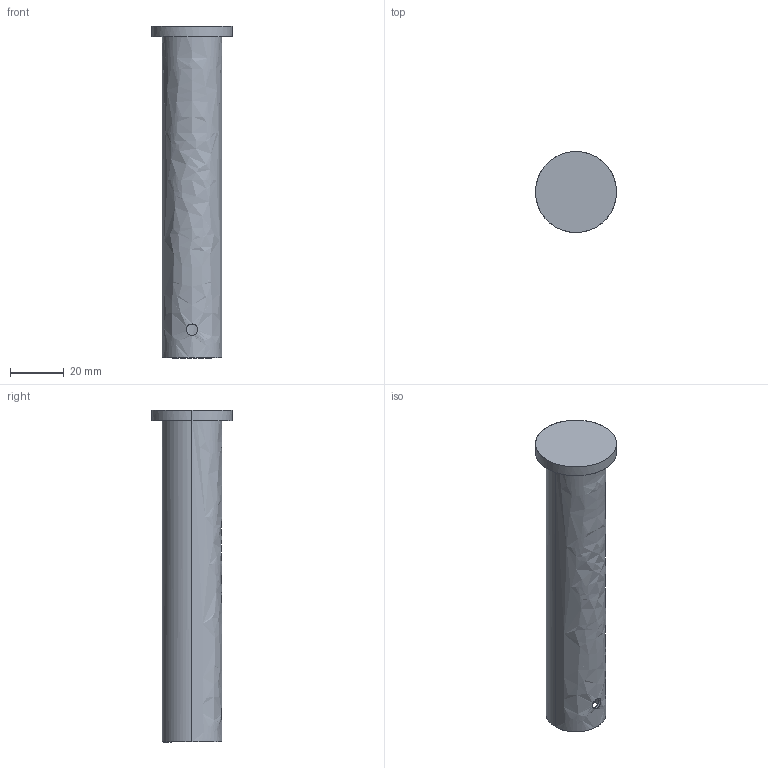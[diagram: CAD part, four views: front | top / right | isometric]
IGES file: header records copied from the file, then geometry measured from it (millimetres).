
Start section: SolidWorks IGES file using NURBS representation for surfaces
Global section: file name: G:\6- Varios\Dani-Olga\LOGIC\PART\225##58-W.IGS; native system: SolidWorks 2016; preprocessor: SolidWorks 2016; author: buldan01; date: 190514.130049; units: millimetre
Bounding box: 30 x 30 x 123 mm (x, y, z)
Surface area: 18239 mm2 (no closed solid volume)
Topology: 0 solids, 0 shells, 30 faces, 704 edges, 762 vertices
Faces by surface type: bspline 30
